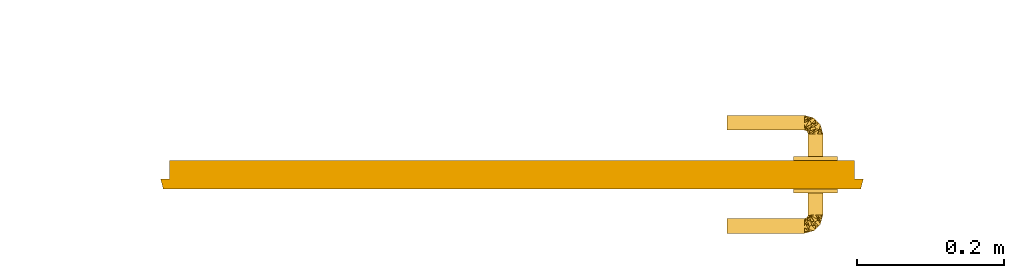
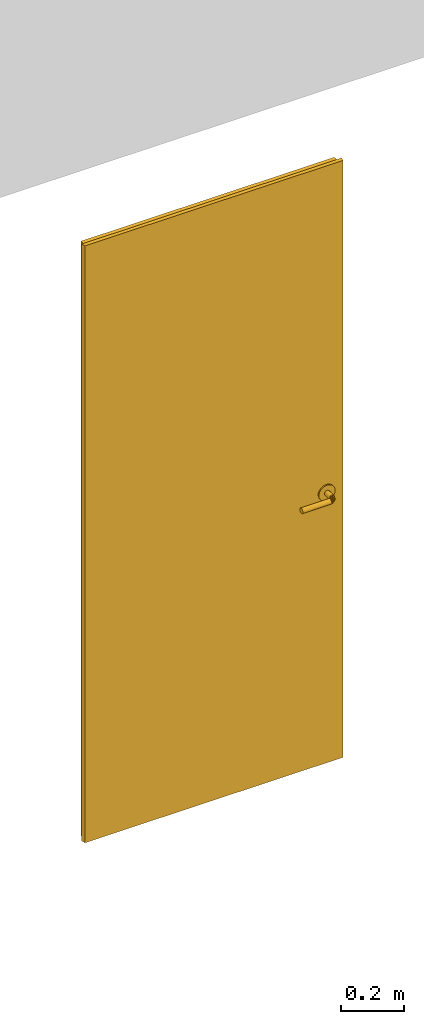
# One storey, part 2 of 2: 1 door.
"""IFC2X3 building model written with IfcOpenShell, lengths in millimetres."""

from ifc_helpers import new_model, entity, si_unit, converted_unit, derived_unit, direction, frame, origin, place, context, subcontext, project, spatial, faceted_brep, source, transform, mapped, material, type_object, type_shapes, element, save


model = new_model("IFC2X3")

# Units and contexts
model_context = context("Model", 3, precision=0.01, world=origin(), true_north=direction((6.12303176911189e-17, 1.0)))
body_context = subcontext(model_context, "Body", "Model", "MODEL_VIEW")
ifc_project = project(units=[si_unit("LENGTHUNIT", "METRE", prefix="MILLI"), si_unit("AREAUNIT", "SQUARE_METRE"), si_unit("VOLUMEUNIT", "CUBIC_METRE"), converted_unit("PLANEANGLEUNIT", "DEGREE", entity("IfcRatioMeasure", 0.0174532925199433), si_unit("PLANEANGLEUNIT", "RADIAN"), dimensions=[0, 0, 0, 0, 0, 0, 0]), si_unit("MASSUNIT", "GRAM", prefix="KILO"), derived_unit("MASSDENSITYUNIT", [(si_unit("MASSUNIT", "GRAM", prefix="KILO"), 1), (si_unit("LENGTHUNIT", "METRE"), -3)]), si_unit("TIMEUNIT", "SECOND"), si_unit("FREQUENCYUNIT", "HERTZ"), si_unit("THERMODYNAMICTEMPERATUREUNIT", "DEGREE_CELSIUS"), derived_unit("THERMALTRANSMITTANCEUNIT", [(si_unit("MASSUNIT", "GRAM", prefix="KILO"), 1), (si_unit("THERMODYNAMICTEMPERATUREUNIT", "KELVIN"), -1), (si_unit("TIMEUNIT", "SECOND"), -3)]), derived_unit("VOLUMETRICFLOWRATEUNIT", [(si_unit("LENGTHUNIT", "METRE"), 3), (si_unit("TIMEUNIT", "SECOND"), -1)]), si_unit("ELECTRICCURRENTUNIT", "AMPERE"), si_unit("ELECTRICVOLTAGEUNIT", "VOLT"), si_unit("POWERUNIT", "WATT"), si_unit("FORCEUNIT", "NEWTON", prefix="KILO"), si_unit("ILLUMINANCEUNIT", "LUX"), si_unit("LUMINOUSFLUXUNIT", "LUMEN"), si_unit("LUMINOUSINTENSITYUNIT", "CANDELA"), derived_unit("USERDEFINED", [(si_unit("MASSUNIT", "GRAM", prefix="KILO"), -1), (si_unit("LENGTHUNIT", "METRE"), -2), (si_unit("TIMEUNIT", "SECOND"), 3), (si_unit("LUMINOUSFLUXUNIT", "LUMEN"), 1)]), derived_unit("LINEARVELOCITYUNIT", [(si_unit("LENGTHUNIT", "METRE"), 1), (si_unit("TIMEUNIT", "SECOND"), -1)]), si_unit("PRESSUREUNIT", "PASCAL"), derived_unit("USERDEFINED", [(si_unit("LENGTHUNIT", "METRE"), -2), (si_unit("MASSUNIT", "GRAM", prefix="KILO"), 1), (si_unit("TIMEUNIT", "SECOND"), -2)])], contexts=[model_context])

# Site, building, storey
site_placement = place(None, origin())
site = spatial("IfcSite", under=ifc_project, at=site_placement, Name="Default", CompositionType="ELEMENT")
building_placement = place(site_placement, origin())
building = spatial("IfcBuilding", under=site, at=building_placement, CompositionType="ELEMENT")
storey_placement = place(building_placement, origin())
storey = spatial("IfcBuildingStorey", under=building, at=storey_placement, Name="Level 1", CompositionType="ELEMENT", Elevation=0.0)

# Door
ifc_material = material(Name="Superlak")
door_style = type_object("IfcDoorStyle", Name="opdek", ConstructionType="NOTDEFINED", OperationType="SINGLE_SWING_LEFT", ParameterTakesPrecedence=False, Sizeable=False, material=ifc_material)
shared_shape = source(origin(), body_context, "Body", "Brep", [
    faceted_brep([(412.0, -44.0, 1020.0), (419.764571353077, -44.0, 1021.02222521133), (427.0, -44.0, 1024.01923788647), (433.213203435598, -44.0, 1028.7867965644), (437.980762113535, -44.0, 1035.0), (440.977774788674, -44.0, 1042.23542864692), (442.0, -44.0, 1050.0), (440.977774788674, -44.0, 1057.76457135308), (437.980762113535, -44.0, 1065.0), (433.213203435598, -44.0, 1071.2132034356), (427.0, -44.0, 1075.98076211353), (419.764571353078, -44.0, 1078.97777478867), (412.0, -44.0, 1080.0), (404.235428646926, -44.0, 1078.97777478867), (397.0, -44.0, 1075.98076211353), (390.786796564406, -44.0, 1071.2132034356), (386.019237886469, -44.0, 1065.0), (383.02222521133, -44.0, 1057.76457135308), (382.0, -44.0, 1050.0), (383.02222521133, -44.0, 1042.23542864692), (386.019237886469, -44.0, 1035.0), (390.786796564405, -44.0, 1028.7867965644), (397.0, -44.0, 1024.01923788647), (404.235428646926, -44.0, 1021.02222521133), (404.235428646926, -39.0, 1021.02222521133), (397.0, -39.0, 1024.01923788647), (390.786796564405, -39.0, 1028.7867965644), (386.019237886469, -39.0, 1035.0), (383.02222521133, -39.0, 1042.23542864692), (382.0, -39.0, 1050.0), (383.02222521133, -39.0, 1057.76457135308), (386.019237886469, -39.0, 1065.0), (390.786796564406, -39.0, 1071.2132034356), (397.0, -39.0, 1075.98076211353), (404.235428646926, -39.0, 1078.97777478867), (412.0, -39.0, 1080.0), (419.764571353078, -39.0, 1078.97777478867), (427.0, -39.0, 1075.98076211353), (433.213203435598, -39.0, 1071.2132034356), (437.980762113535, -39.0, 1065.0), (440.977774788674, -39.0, 1057.76457135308), (442.0, -39.0, 1050.0), (440.977774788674, -39.0, 1042.23542864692), (437.980762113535, -39.0, 1035.0), (433.213203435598, -39.0, 1028.7867965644), (427.0, -39.0, 1024.01923788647), (419.764571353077, -39.0, 1021.02222521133), (412.0, -39.0, 1020.0)], [[[0, 1, 2, 3, 4, 5, 6, 7, 8, 9, 10, 11, 12, 13, 14, 15, 16, 17, 18, 19, 20, 21, 22, 23]], [[24, 25, 26, 27, 28, 29, 30, 31, 32, 33, 34, 35, 36, 37, 38, 39, 40, 41, 42, 43, 44, 45, 46, 47]], [[40, 7, 6, 41]], [[39, 8, 7, 40]], [[9, 38, 37, 10]], [[39, 38, 9, 8]], [[10, 37, 36, 11]], [[11, 36, 35, 12]], [[33, 14, 13, 34]], [[32, 15, 14, 33]], [[16, 31, 30, 17]], [[32, 31, 16, 15]], [[17, 30, 29, 18]], [[13, 12, 35, 34]], [[28, 19, 18, 29]], [[27, 20, 19, 28]], [[21, 26, 25, 22]], [[27, 26, 21, 20]], [[22, 25, 24, 23]], [[23, 24, 47, 0]], [[45, 2, 1, 46]], [[44, 3, 2, 45]], [[4, 43, 42, 5]], [[44, 43, 4, 3]], [[5, 42, 41, 6]], [[1, 0, 47, 46]]]),
    faceted_brep([(404.235428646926, 0.0, 1021.02222521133), (412.0, 0.0, 1020.0), (419.764571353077, 0.0, 1021.02222521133), (427.0, 0.0, 1024.01923788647), (433.213203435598, 0.0, 1028.7867965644), (437.980762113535, 0.0, 1035.0), (440.977774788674, 0.0, 1042.23542864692), (442.0, 0.0, 1050.0), (440.977774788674, 0.0, 1057.76457135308), (437.980762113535, 0.0, 1065.0), (433.213203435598, 0.0, 1071.2132034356), (427.0, 0.0, 1075.98076211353), (419.764571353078, 0.0, 1078.97777478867), (412.0, 0.0, 1080.0), (404.235428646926, 0.0, 1078.97777478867), (397.0, 0.0, 1075.98076211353), (390.786796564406, 0.0, 1071.2132034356), (386.019237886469, 0.0, 1065.0), (383.02222521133, 0.0, 1057.76457135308), (382.0, 0.0, 1050.0), (383.02222521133, 0.0, 1042.23542864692), (386.019237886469, 0.0, 1035.0), (390.786796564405, 0.0, 1028.7867965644), (397.0, 0.0, 1024.01923788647), (390.786796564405, 5.0, 1028.7867965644), (386.019237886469, 5.0, 1035.0), (383.02222521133, 5.0, 1042.23542864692), (382.0, 5.0, 1050.0), (383.02222521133, 5.0, 1057.76457135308), (386.019237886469, 5.0, 1065.0), (390.786796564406, 5.0, 1071.2132034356), (397.0, 5.0, 1075.98076211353), (404.235428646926, 5.0, 1078.97777478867), (412.0, 5.0, 1080.0), (419.764571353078, 5.0, 1078.97777478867), (427.0, 5.0, 1075.98076211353), (433.213203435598, 5.0, 1071.2132034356), (437.980762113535, 5.0, 1065.0), (440.977774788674, 5.0, 1057.76457135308), (442.0, 5.0, 1050.0), (440.977774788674, 5.0, 1042.23542864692), (437.980762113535, 5.0, 1035.0), (433.213203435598, 5.0, 1028.7867965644), (427.0, 5.0, 1024.01923788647), (419.764571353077, 5.0, 1021.02222521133), (412.0, 5.0, 1020.0), (404.235428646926, 5.0, 1021.02222521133), (397.0, 5.0, 1024.01923788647)], [[[0, 1, 2, 3, 4, 5, 6, 7, 8, 9, 10, 11, 12, 13, 14, 15, 16, 17, 18, 19, 20, 21, 22, 23]], [[24, 25, 26, 27, 28, 29, 30, 31, 32, 33, 34, 35, 36, 37, 38, 39, 40, 41, 42, 43, 44, 45, 46, 47]], [[38, 8, 7, 39]], [[37, 9, 8, 38]], [[10, 36, 35, 11]], [[37, 36, 10, 9]], [[11, 35, 34, 12]], [[12, 34, 33, 13]], [[31, 15, 14, 32]], [[30, 16, 15, 31]], [[17, 29, 28, 18]], [[30, 29, 17, 16]], [[18, 28, 27, 19]], [[14, 13, 33, 32]], [[26, 20, 19, 27]], [[25, 21, 20, 26]], [[22, 24, 47, 23]], [[25, 24, 22, 21]], [[23, 47, 46, 0]], [[0, 46, 45, 1]], [[43, 3, 2, 44]], [[42, 4, 3, 43]], [[5, 41, 40, 6]], [[42, 41, 5, 4]], [[6, 40, 39, 7]], [[2, 1, 45, 44]]]),
    faceted_brep([(412.0, 0.0, 1040.0), (414.588190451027, 0.0, 1040.34074173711), (417.0, 0.0, 1041.33974596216), (419.071067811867, 0.0, 1042.92893218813), (420.660254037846, 0.0, 1045.0), (421.659258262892, 0.0, 1047.41180954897), (422.0, 0.0, 1050.0), (421.659258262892, 0.0, 1052.58819045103), (420.660254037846, 0.0, 1055.0), (419.071067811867, 0.0, 1057.07106781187), (417.0, 0.0, 1058.66025403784), (414.588190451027, 0.0, 1059.65925826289), (412.0, 0.0, 1060.0), (409.411809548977, 0.0, 1059.65925826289), (407.0, 0.0, 1058.66025403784), (404.928932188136, 0.0, 1057.07106781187), (403.339745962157, 0.0, 1055.0), (402.340741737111, 0.0, 1052.58819045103), (402.0, 0.0, 1050.0), (402.340741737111, 0.0, 1047.41180954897), (403.339745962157, 0.0, 1045.0), (404.928932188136, 0.0, 1042.92893218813), (407.0, 0.0, 1041.33974596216), (409.411809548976, 0.0, 1040.34074173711), (402.340741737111, 36.0, 1047.41180954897), (402.0, 36.0, 1050.0), (403.339745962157, 36.0, 1045.0), (404.928932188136, 36.0, 1042.92893218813), (407.0, 36.0, 1041.33974596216), (409.411809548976, 36.0, 1040.34074173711), (412.0, 36.0, 1040.0), (417.0, 36.0, 1041.33974596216), (414.588190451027, 36.0, 1040.34074173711), (419.071067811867, 36.0, 1042.92893218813), (420.660254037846, 36.0, 1045.0), (421.659258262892, 36.0, 1047.41180954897), (422.0, 36.0, 1050.0), (421.659258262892, 36.0, 1052.58819045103), (420.660254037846, 36.0, 1055.0), (419.071067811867, 36.0, 1057.07106781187), (417.0, 36.0, 1058.66025403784), (414.588190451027, 36.0, 1059.65925826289), (412.0, 36.0, 1060.0), (407.0, 36.0, 1058.66025403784), (409.411809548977, 36.0, 1059.65925826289), (404.928932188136, 36.0, 1057.07106781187), (403.339745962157, 36.0, 1055.0), (402.340741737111, 36.0, 1052.58819045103), (417.028337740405, 41.9601355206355, 1041.92330310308), (418.650635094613, 48.4999999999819, 1050.0), (419.472408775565, 45.4330988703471, 1050.0), (420.294182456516, 42.3661977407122, 1050.0), (410.75291441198, 45.5376711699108, 1040.15192249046), (404.376369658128, 40.0184576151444, 1042.48740514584), (405.501282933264, 44.501282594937, 1040.45352084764), (400.535533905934, 39.5355339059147, 1050.0), (397.0, 41.0, 1050.0), (401.018457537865, 43.3763693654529, 1042.4874054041), (413.035086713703, 42.5838755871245, 1040.2762186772), (397.0, 42.3397459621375, 1045.0), (406.5376718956, 49.7529150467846, 1040.15192265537), (411.67176226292, 50.9205093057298, 1041.94476268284), (397.0, 41.3407417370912, 1047.41180954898), (421.57354561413, 37.5915494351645, 1050.0), (409.500000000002, 57.6506350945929, 1050.0), (404.010617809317, 54.6703763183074, 1041.30720684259), (406.43309889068, 58.4724087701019, 1050.0), (421.147091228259, 39.1830988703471, 1050.0), (411.787658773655, 55.3629763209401, 1050.0), (416.36297632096, 50.7876587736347, 1050.0), (397.0, 51.0, 1040.0), (397.0, 53.588190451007, 1040.34074173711), (397.0, 43.9289321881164, 1042.92893218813), (403.366197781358, 59.2941824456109, 1050.0), (397.0, 58.0710678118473, 1042.92893218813), (400.18309889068, 60.1470912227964, 1050.0), (397.0, 48.4118095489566, 1040.34074173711), (397.0, 46.0, 1041.33974596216), (398.591549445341, 60.5735456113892, 1050.0), (397.0, 59.6602540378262, 1045.0), (414.075317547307, 53.0753175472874, 1050.0), (397.0, 56.0, 1041.33974596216), (397.0, 60.6592582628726, 1047.41180954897), (397.0, 61.0, 1050.0), (417.028337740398, 41.9601355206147, 1058.07669689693), (413.035086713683, 42.5838755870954, 1059.7237813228), (410.752914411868, 45.5376711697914, 1059.84807750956), (404.376369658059, 40.0184576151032, 1057.51259485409), (411.920509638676, 50.6717618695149, 1058.05523734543), (406.53767189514, 49.7529150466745, 1059.8480773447), (405.501282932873, 44.5012825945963, 1059.5464791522), (404.010617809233, 54.6703763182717, 1058.69279315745), (401.018457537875, 43.3763693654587, 1057.51259459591), (397.0, 41.3407417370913, 1052.58819045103), (397.0, 42.3397459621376, 1055.0), (397.0, 53.5881904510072, 1059.65925826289), (397.0, 43.9289321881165, 1057.07106781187), (397.0, 46.0, 1058.66025403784), (397.0, 56.0, 1058.66025403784), (397.0, 51.0, 1060.0), (397.0, 58.0710678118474, 1057.07106781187), (397.0, 60.6592582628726, 1052.58819045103), (397.0, 59.6602540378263, 1055.0), (397.0, 48.4118095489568, 1059.65925826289), (292.0, 51.0, 1040.0), (292.0, 48.411809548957, 1040.34074173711), (292.0, 46.0, 1041.33974596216), (292.0, 43.9289321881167, 1042.92893218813), (292.0, 42.3397459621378, 1045.0), (292.0, 41.3407417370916, 1047.41180954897), (292.0, 41.0, 1050.0), (292.0, 41.3407417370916, 1052.58819045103), (292.0, 42.3397459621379, 1055.0), (292.0, 43.9289321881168, 1057.07106781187), (292.0, 46.0, 1058.66025403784), (292.0, 48.4118095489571, 1059.65925826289), (292.0, 51.0, 1060.0), (292.0, 53.5881904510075, 1059.65925826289), (292.0, 56.0, 1058.66025403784), (292.0, 58.0710678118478, 1057.07106781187), (292.0, 59.6602540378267, 1055.0), (292.0, 60.659258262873, 1052.58819045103), (292.0, 61.0, 1050.0), (292.0, 60.6592582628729, 1047.41180954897), (292.0, 59.6602540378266, 1045.0), (292.0, 58.0710678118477, 1042.92893218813), (292.0, 56.0, 1041.33974596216), (292.0, 53.5881904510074, 1040.34074173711)], [[[0, 1, 2, 3, 4, 5, 6, 7, 8, 9, 10, 11, 12, 13, 14, 15, 16, 17, 18, 19, 20, 21, 22, 23]], [[24, 19, 18, 25]], [[26, 20, 19, 24]], [[21, 27, 28, 22]], [[26, 27, 21, 20]], [[22, 28, 29, 23]], [[23, 29, 30, 0]], [[31, 2, 1, 32]], [[33, 3, 2, 31]], [[4, 34, 35, 5]], [[33, 34, 4, 3]], [[5, 35, 36, 6]], [[1, 0, 30, 32]], [[37, 7, 6, 36]], [[38, 8, 7, 37]], [[9, 39, 40, 10]], [[38, 39, 9, 8]], [[10, 40, 41, 11]], [[11, 41, 42, 12]], [[43, 14, 13, 44]], [[45, 15, 14, 43]], [[16, 46, 47, 17]], [[45, 46, 16, 15]], [[17, 47, 25, 18]], [[13, 12, 42, 44]], [[48, 49, 50, 51]], [[52, 53, 54]], [[55, 56, 57]], [[58, 27, 26]], [[52, 58, 53]], [[59, 60, 57]], [[26, 53, 58]], [[61, 52, 54]], [[24, 53, 26]], [[55, 57, 54]], [[61, 54, 60]], [[57, 56, 62]], [[63, 36, 35]], [[64, 60, 65]], [[66, 64, 65]], [[33, 51, 67]], [[30, 48, 32]], [[60, 64, 68]], [[51, 33, 31]], [[31, 32, 51]], [[58, 69, 49]], [[70, 71, 66]], [[32, 48, 51]], [[54, 57, 60]], [[55, 54, 53]], [[59, 57, 62]], [[60, 59, 72]], [[73, 74, 75]], [[68, 61, 60]], [[24, 25, 53]], [[67, 34, 33]], [[76, 65, 77]], [[67, 63, 34]], [[78, 75, 79]], [[65, 72, 77]], [[34, 63, 35]], [[76, 70, 65]], [[61, 69, 52]], [[80, 69, 61, 68]], [[81, 74, 73]], [[73, 71, 81]], [[28, 48, 29]], [[66, 71, 73]], [[79, 82, 78]], [[58, 52, 69]], [[70, 66, 65]], [[48, 30, 29]], [[72, 65, 60]], [[79, 75, 74]], [[82, 83, 78]], [[49, 48, 58]], [[28, 27, 58]], [[25, 55, 53]], [[28, 58, 48]], [[37, 63, 38]], [[84, 41, 51]], [[85, 86, 87]], [[51, 50, 49, 84]], [[51, 40, 39]], [[38, 67, 39]], [[40, 51, 41]], [[49, 85, 84]], [[84, 43, 44]], [[88, 89, 90]], [[64, 91, 89]], [[84, 42, 41]], [[84, 44, 42]], [[56, 55, 92]], [[43, 84, 85]], [[93, 92, 94]], [[66, 73, 95]], [[37, 36, 63]], [[85, 87, 46]], [[85, 45, 43]], [[86, 88, 90]], [[96, 91, 97]], [[55, 87, 90]], [[86, 69, 88]], [[88, 68, 89]], [[73, 98, 95]], [[87, 86, 90]], [[66, 99, 91]], [[95, 99, 66]], [[75, 100, 73]], [[64, 89, 68]], [[73, 100, 98]], [[91, 64, 66]], [[101, 78, 83]], [[89, 92, 90]], [[85, 69, 86]], [[51, 39, 67]], [[87, 25, 47]], [[80, 68, 88, 69]], [[94, 92, 89]], [[75, 102, 100]], [[93, 56, 92]], [[102, 78, 101]], [[91, 96, 89]], [[63, 67, 38]], [[96, 94, 89]], [[75, 78, 102]], [[97, 91, 103]], [[99, 103, 91]], [[46, 45, 85]], [[55, 90, 92]], [[47, 46, 87]], [[69, 85, 49]], [[55, 25, 87]], [[104, 105, 106, 107, 108, 109, 110, 111, 112, 113, 114, 115, 116, 117, 118, 119, 120, 121, 122, 123, 124, 125, 126, 127]], [[109, 62, 56, 110]], [[108, 59, 62, 109]], [[106, 77, 72, 107]], [[107, 72, 59, 108]], [[105, 76, 77, 106]], [[76, 105, 104, 70]], [[126, 125, 74, 81]], [[127, 126, 81, 71]], [[123, 122, 83, 82]], [[124, 123, 82, 79]], [[125, 124, 79, 74]], [[71, 70, 104, 127]], [[83, 122, 121, 101]], [[120, 102, 101, 121]], [[118, 117, 95, 98]], [[119, 118, 98, 100]], [[102, 120, 119, 100]], [[95, 117, 116, 99]], [[114, 113, 96, 97]], [[115, 114, 97, 103]], [[111, 110, 56, 93]], [[112, 111, 93, 94]], [[113, 112, 94, 96]], [[115, 103, 99, 116]]]),
    faceted_brep([(292.0, -89.0, 1040.0), (292.0, -91.5881904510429, 1040.34074173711), (292.0, -94.0, 1041.33974596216), (292.0, -96.0710678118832, 1042.92893218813), (292.0, -97.6602540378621, 1045.0), (292.0, -98.6592582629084, 1047.41180954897), (292.0, -99.0, 1050.0), (292.0, -98.6592582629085, 1052.58819045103), (292.0, -97.6602540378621, 1055.0), (292.0, -96.0710678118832, 1057.07106781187), (292.0, -94.0, 1058.66025403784), (292.0, -91.588190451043, 1059.65925826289), (292.0, -89.0, 1060.0), (292.0, -86.4118095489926, 1059.65925826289), (292.0, -84.0, 1058.66025403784), (292.0, -81.9289321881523, 1057.07106781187), (292.0, -80.3397459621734, 1055.0), (292.0, -79.3407417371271, 1052.58819045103), (292.0, -79.0, 1050.0), (292.0, -79.3407417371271, 1047.41180954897), (292.0, -80.3397459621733, 1045.0), (292.0, -81.9289321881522, 1042.92893218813), (292.0, -84.0, 1041.33974596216), (292.0, -86.4118095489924, 1040.34074173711), (397.0, -79.3407417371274, 1047.41180954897), (397.0, -79.0, 1050.0), (397.0, -80.3397459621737, 1045.0), (397.0, -84.0, 1041.33974596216), (397.0, -81.9289321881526, 1042.92893218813), (397.0, -86.4118095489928, 1040.34074173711), (397.0, -89.0, 1040.0), (397.0, -94.0, 1041.33974596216), (397.0, -96.0710678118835, 1042.92893218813), (397.0, -91.5881904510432, 1040.34074173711), (397.0, -98.6592582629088, 1047.41180954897), (397.0, -99.0, 1050.0), (397.0, -97.6602540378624, 1045.0), (397.0, -98.6592582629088, 1052.58819045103), (397.0, -97.6602540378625, 1055.0), (397.0, -94.0, 1058.66025403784), (397.0, -91.5881904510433, 1059.65925826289), (397.0, -96.0710678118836, 1057.07106781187), (397.0, -89.0, 1060.0), (397.0, -84.0, 1058.66025403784), (397.0, -81.9289321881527, 1057.07106781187), (397.0, -86.4118095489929, 1059.65925826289), (397.0, -79.3407417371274, 1052.58819045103), (397.0, -80.3397459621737, 1055.0), (402.960135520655, -94.0283377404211, 1041.92330310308), (409.500000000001, -95.6506350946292, 1050.0), (406.433098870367, -96.4724087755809, 1050.0), (403.366197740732, -97.2941824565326, 1050.0), (406.53767116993, -87.7529144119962, 1040.15192249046), (401.018457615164, -81.3763696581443, 1042.48740514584), (405.501282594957, -82.5012829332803, 1040.45352084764), (400.535533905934, -77.5355339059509, 1050.0), (402.0, -74.0, 1050.0), (404.376369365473, -78.0184575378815, 1042.4874054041), (403.583875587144, -90.0350867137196, 1040.2762186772), (403.339745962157, -74.0, 1045.0), (410.752915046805, -83.5376718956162, 1040.15192265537), (411.92050930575, -88.6717622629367, 1041.94476268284), (402.340741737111, -74.0, 1047.41180954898), (398.591549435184, -98.5735456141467, 1050.0), (418.650635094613, -86.5000000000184, 1050.0), (415.670376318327, -81.010617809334, 1041.30720684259), (419.472408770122, -83.4330988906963, 1050.0), (400.183098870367, -98.1470912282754, 1050.0), (416.36297632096, -88.7876587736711, 1050.0), (411.787658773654, -93.3629763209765, 1050.0), (412.0, -74.0, 1040.0), (414.588190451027, -74.0, 1040.34074173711), (404.928932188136, -74.0, 1042.92893218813), (420.294182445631, -80.3661977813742, 1050.0), (419.071067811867, -74.0, 1042.92893218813), (421.147091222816, -77.1830988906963, 1050.0), (409.411809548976, -74.0, 1040.34074173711), (407.0, -74.0, 1041.33974596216), (421.573545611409, -75.5915494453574, 1050.0), (420.660254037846, -74.0, 1045.0), (414.075317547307, -91.0753175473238, 1050.0), (417.0, -74.0, 1041.33974596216), (421.659258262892, -74.0, 1047.41180954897), (422.0, -74.0, 1050.0), (402.960135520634, -94.0283377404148, 1058.07669689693), (403.583875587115, -90.0350867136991, 1059.7237813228), (406.537671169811, -87.752914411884, 1059.84807750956), (401.018457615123, -81.3763696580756, 1057.51259485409), (411.671761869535, -88.9205096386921, 1058.05523734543), (410.752915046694, -83.5376718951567, 1059.8480773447), (405.501282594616, -82.5012829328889, 1059.5464791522), (415.670376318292, -81.0106178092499, 1058.69279315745), (404.376369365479, -78.0184575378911, 1057.51259459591), (402.340741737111, -74.0, 1052.58819045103), (403.339745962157, -74.0, 1055.0), (414.588190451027, -74.0, 1059.65925826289), (404.928932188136, -74.0, 1057.07106781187), (407.0, -74.0, 1058.66025403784), (417.0, -74.0, 1058.66025403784), (412.0, -74.0, 1060.0), (419.071067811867, -74.0, 1057.07106781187), (421.659258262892, -74.0, 1052.58819045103), (420.660254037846, -74.0, 1055.0), (409.411809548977, -74.0, 1059.65925826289), (409.411809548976, -39.0, 1040.34074173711), (407.0, -39.0, 1041.33974596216), (404.928932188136, -39.0, 1042.92893218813), (403.339745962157, -39.0, 1045.0), (402.340741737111, -39.0, 1047.41180954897), (402.0, -39.0, 1050.0), (402.340741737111, -39.0, 1052.58819045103), (403.339745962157, -39.0, 1055.0), (404.928932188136, -39.0, 1057.07106781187), (407.0, -39.0, 1058.66025403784), (409.411809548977, -39.0, 1059.65925826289), (412.0, -39.0, 1060.0), (414.588190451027, -39.0, 1059.65925826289), (417.0, -39.0, 1058.66025403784), (419.071067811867, -39.0, 1057.07106781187), (420.660254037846, -39.0, 1055.0), (421.659258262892, -39.0, 1052.58819045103), (422.0, -39.0, 1050.0), (421.659258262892, -39.0, 1047.41180954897), (420.660254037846, -39.0, 1045.0), (419.071067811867, -39.0, 1042.92893218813), (417.0, -39.0, 1041.33974596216), (414.588190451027, -39.0, 1040.34074173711), (412.0, -39.0, 1040.0)], [[[0, 1, 2, 3, 4, 5, 6, 7, 8, 9, 10, 11, 12, 13, 14, 15, 16, 17, 18, 19, 20, 21, 22, 23]], [[24, 19, 18, 25]], [[26, 20, 19, 24]], [[27, 22, 21, 28]], [[28, 21, 20, 26]], [[29, 23, 22, 27]], [[23, 29, 30, 0]], [[31, 32, 3, 2]], [[33, 31, 2, 1]], [[34, 35, 6, 5]], [[36, 34, 5, 4]], [[32, 36, 4, 3]], [[1, 0, 30, 33]], [[6, 35, 37, 7]], [[38, 8, 7, 37]], [[39, 40, 11, 10]], [[41, 39, 10, 9]], [[8, 38, 41, 9]], [[11, 40, 42, 12]], [[43, 44, 15, 14]], [[45, 43, 14, 13]], [[46, 25, 18, 17]], [[47, 46, 17, 16]], [[44, 47, 16, 15]], [[45, 13, 12, 42]], [[48, 49, 50, 51]], [[52, 53, 54]], [[55, 56, 57]], [[58, 28, 26]], [[52, 58, 53]], [[59, 60, 57]], [[26, 53, 58]], [[61, 52, 54]], [[24, 53, 26]], [[55, 57, 54]], [[61, 54, 60]], [[57, 56, 62]], [[63, 35, 34]], [[64, 60, 65]], [[66, 64, 65]], [[32, 51, 67]], [[30, 48, 33]], [[60, 64, 68]], [[51, 32, 31]], [[31, 33, 51]], [[58, 69, 49]], [[70, 71, 66]], [[33, 48, 51]], [[54, 57, 60]], [[55, 54, 53]], [[59, 57, 62]], [[60, 59, 72]], [[73, 74, 75]], [[68, 61, 60]], [[24, 25, 53]], [[67, 36, 32]], [[76, 65, 77]], [[67, 63, 36]], [[78, 75, 79]], [[65, 72, 77]], [[36, 63, 34]], [[76, 70, 65]], [[61, 69, 52]], [[80, 69, 61, 68]], [[81, 74, 73]], [[73, 71, 81]], [[27, 48, 29]], [[66, 71, 73]], [[79, 82, 78]], [[58, 52, 69]], [[70, 66, 65]], [[48, 30, 29]], [[72, 65, 60]], [[79, 75, 74]], [[82, 83, 78]], [[49, 48, 58]], [[27, 28, 58]], [[25, 55, 53]], [[27, 58, 48]], [[37, 63, 38]], [[84, 40, 51]], [[85, 86, 87]], [[51, 50, 49, 84]], [[51, 39, 41]], [[38, 67, 41]], [[39, 51, 40]], [[49, 85, 84]], [[84, 43, 45]], [[88, 89, 90]], [[64, 91, 89]], [[84, 42, 40]], [[84, 45, 42]], [[56, 55, 92]], [[43, 84, 85]], [[93, 92, 94]], [[66, 73, 95]], [[37, 35, 63]], [[85, 87, 47]], [[85, 44, 43]], [[86, 88, 90]], [[96, 91, 97]], [[55, 87, 90]], [[86, 69, 88]], [[88, 68, 89]], [[73, 98, 95]], [[87, 86, 90]], [[66, 99, 91]], [[95, 99, 66]], [[75, 100, 73]], [[64, 89, 68]], [[73, 100, 98]], [[91, 64, 66]], [[101, 78, 83]], [[89, 92, 90]], [[85, 69, 86]], [[51, 41, 67]], [[87, 25, 46]], [[80, 68, 88, 69]], [[94, 92, 89]], [[75, 102, 100]], [[93, 56, 92]], [[102, 78, 101]], [[91, 96, 89]], [[63, 67, 38]], [[96, 94, 89]], [[75, 78, 102]], [[97, 91, 103]], [[99, 103, 91]], [[47, 44, 85]], [[55, 90, 92]], [[46, 47, 87]], [[69, 85, 49]], [[55, 25, 87]], [[104, 105, 106, 107, 108, 109, 110, 111, 112, 113, 114, 115, 116, 117, 118, 119, 120, 121, 122, 123, 124, 125, 126, 127]], [[108, 62, 56, 109]], [[107, 59, 62, 108]], [[72, 106, 105, 77]], [[107, 106, 72, 59]], [[77, 105, 104, 76]], [[76, 104, 127, 70]], [[125, 81, 71, 126]], [[124, 74, 81, 125]], [[79, 123, 122, 82]], [[124, 123, 79, 74]], [[82, 122, 121, 83]], [[71, 70, 127, 126]], [[120, 101, 83, 121]], [[119, 102, 101, 120]], [[100, 118, 117, 98]], [[119, 118, 100, 102]], [[98, 117, 116, 95]], [[95, 116, 115, 99]], [[113, 97, 103, 114]], [[112, 96, 97, 113]], [[94, 111, 110, 93]], [[112, 111, 94, 96]], [[93, 110, 109, 56]], [[103, 99, 115, 114]]]),
    faceted_brep([(-473.248711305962, -39.0, 0.0), (473.248711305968, -39.0, 0.0), (473.248711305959, -39.0, 2315.0), (-473.248711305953, -39.0, 2315.0), (465.0, 0.0, 0.0), (465.0, -25.0, 0.0), (477.0, -25.0, 0.0), (-477.0, -25.0, 0.0), (-465.0, -25.0, 0.0), (-465.0, 0.0, 0.0), (477.0, -25.0, 2315.0), (-477.0, -25.0, 2315.0), (-465.0, 0.0, 2307.0), (465.0, 0.0, 2307.0), (-465.0, -25.0, 2307.0), (465.0, -25.0, 2307.0)], [[[0, 1, 2, 3]], [[4, 5, 6, 1, 0, 7, 8, 9]], [[1, 6, 10, 2]], [[11, 7, 0, 3]], [[4, 9, 12, 13]], [[9, 8, 14, 12]], [[5, 4, 13, 15]], [[6, 5, 15, 14, 8, 7, 11, 10]], [[10, 11, 3, 2]], [[14, 15, 13, 12]]]),
])
type_shapes(door_style, [shared_shape])
door_placement = place(storey_placement, frame((-7635.14013828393, -4230.70613961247, 28.0)))
element("IfcDoor", 1, at=door_placement, inside=storey, type_object=door_style, material=ifc_material, Name="voorbeeld 1_test_01_deurA:opdek", ObjectType="voorbeeld 1_test_01_deurA:opdek", OverallHeight=2420.00000000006, OverallWidth=1861.99999999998, context=body_context, shape_type="MappedRepresentation", body=[
    mapped(shared_shape, transform((0.0, 0.0, 0.0), scale=1.0)),
])

save(model, "model.ifc")
